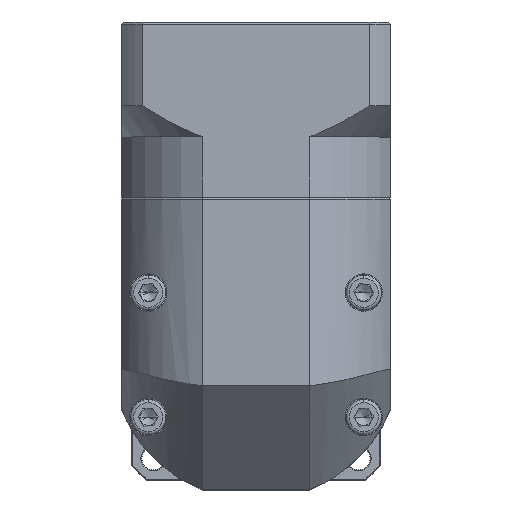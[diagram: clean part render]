
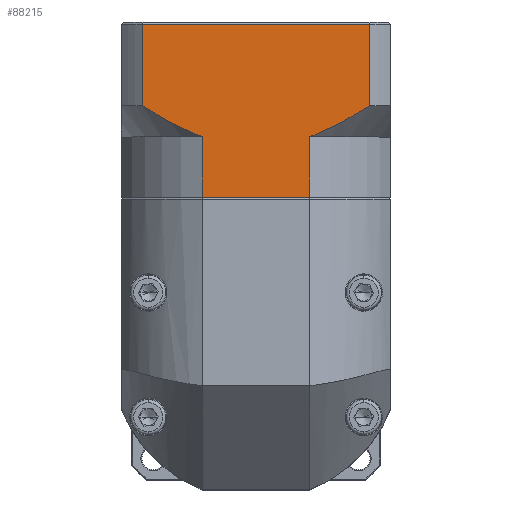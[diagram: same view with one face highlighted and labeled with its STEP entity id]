
A CAD part, top view. The second image highlights one B-rep face of the part: STEP entity #88215.
In plain terms, the highlighted planar face has unit normal (0, 0, 1).
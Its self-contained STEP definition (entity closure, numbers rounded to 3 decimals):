
#827 = DIRECTION ( 'NONE',  ( 0., 1., 0. ) ) ;
#958 = CARTESIAN_POINT ( 'NONE',  ( -35.072, 89.623, 62.31 ) ) ;
#2203 = VECTOR ( 'NONE', #91145, 1000. ) ;
#4314 = DIRECTION ( 'NONE',  ( 0., -1., 0. ) ) ;
#4470 = LINE ( 'NONE', #90801, #80228 ) ;
#4564 = ORIENTED_EDGE ( 'NONE', *, *, #39163, .F. ) ;
#4721 = CARTESIAN_POINT ( 'NONE',  ( -66.073, 87.482, 62.31 ) ) ;
#4829 = EDGE_LOOP ( 'NONE', ( #4564, #57279, #32916, #60467, #90085, #9242, #20158, #62355 ) ) ;
#7513 = DIRECTION ( 'NONE',  ( 0., -1., 0. ) ) ;
#7864 = VERTEX_POINT ( 'NONE', #18017 ) ;
#9242 = ORIENTED_EDGE ( 'NONE', *, *, #41613, .T. ) ;
#10025 = CARTESIAN_POINT ( 'NONE',  ( -38.812, 87.973, 62.31 ) ) ;
#12702 = VERTEX_POINT ( 'NONE', #22826 ) ;
#17752 = CARTESIAN_POINT ( 'NONE',  ( -39.451, 87.72, 62.31 ) ) ;
#18017 = CARTESIAN_POINT ( 'NONE',  ( -80.469, 114.682, 62.31 ) ) ;
#18088 = LINE ( 'NONE', #60161, #97824 ) ;
#18117 = CARTESIAN_POINT ( 'NONE',  ( -36.926, 88.772, 62.31 ) ) ;
#18439 = VERTEX_POINT ( 'NONE', #21422 ) ;
#19204 = VERTEX_POINT ( 'NONE', #76168 ) ;
#20158 = ORIENTED_EDGE ( 'NONE', *, *, #20399, .F. ) ;
#20399 = EDGE_CURVE ( 'NONE', #12702, #18439, #4470, .T. ) ;
#20733 = CARTESIAN_POINT ( 'NONE',  ( -25.697, 87.482, 62.31 ) ) ;
#21422 = CARTESIAN_POINT ( 'NONE',  ( -40.093, 72.982, 62.31 ) ) ;
#21916 = VECTOR ( 'NONE', #38189, 1000. ) ;
#22826 = CARTESIAN_POINT ( 'NONE',  ( -40.093, 87.482, 62.31 ) ) ;
#27492 = B_SPLINE_CURVE_WITH_KNOTS ( 'NONE', 3,
 ( #101266, #50706, #43085, #34373, #66835, #101617, #41621, #58027 ),
 .UNSPECIFIED., .F., .F.,
 ( 4, 2, 2, 4 ),
 ( 0.058, 0.062, 0.066, 0.074 ),
 .UNSPECIFIED. ) ;
#29106 = EDGE_CURVE ( 'NONE', #19204, #60286, #45265, .T. ) ;
#32916 = ORIENTED_EDGE ( 'NONE', *, *, #84470, .F. ) ;
#34373 = CARTESIAN_POINT ( 'NONE',  ( -75.845, 92.149, 62.31 ) ) ;
#35231 = CARTESIAN_POINT ( 'NONE',  ( -33.86, 90.228, 62.31 ) ) ;
#36760 = LINE ( 'NONE', #81569, #51077 ) ;
#38189 = DIRECTION ( 'NONE',  ( 0., 1., 0. ) ) ;
#39163 = EDGE_CURVE ( 'NONE', #61709, #61921, #72680, .T. ) ;
#41613 = EDGE_CURVE ( 'NONE', #19204, #18439, #84538, .T. ) ;
#41621 = CARTESIAN_POINT ( 'NONE',  ( -68.611, 88.424, 62.31 ) ) ;
#43085 = CARTESIAN_POINT ( 'NONE',  ( -78.18, 93.533, 62.31 ) ) ;
#43741 = DIRECTION ( 'NONE',  ( -1., 0., 0. ) ) ;
#45265 = LINE ( 'NONE', #4721, #21916 ) ;
#47730 = VECTOR ( 'NONE', #4314, 1000. ) ;
#50706 = CARTESIAN_POINT ( 'NONE',  ( -79.331, 94.248, 62.31 ) ) ;
#51077 = VECTOR ( 'NONE', #827, 1000. ) ;
#51232 = CARTESIAN_POINT ( 'NONE',  ( -40.093, 87.482, 62.31 ) ) ;
#51852 = CARTESIAN_POINT ( 'NONE',  ( -25.697, 114.682, 62.31 ) ) ;
#52501 = EDGE_CURVE ( 'NONE', #69113, #60286, #27492, .T. ) ;
#53288 = DIRECTION ( 'NONE',  ( 0., 1., 0. ) ) ;
#54224 = B_SPLINE_CURVE_WITH_KNOTS ( 'NONE', 3,
 ( #51232, #17752, #10025, #92609, #18117, #958, #35231, #85638, #76576, #59292 ),
 .UNSPECIFIED., .F., .F.,
 ( 4, 2, 2, 2, 4 ),
 ( 0.101, 0.103, 0.105, 0.109, 0.117 ),
 .UNSPECIFIED. ) ;
#57279 = ORIENTED_EDGE ( 'NONE', *, *, #107761, .T. ) ;
#58027 = CARTESIAN_POINT ( 'NONE',  ( -66.073, 87.482, 62.31 ) ) ;
#59292 = CARTESIAN_POINT ( 'NONE',  ( -25.697, 94.982, 62.31 ) ) ;
#60161 = CARTESIAN_POINT ( 'NONE',  ( -85.583, 114.682, 62.31 ) ) ;
#60286 = VERTEX_POINT ( 'NONE', #60617 ) ;
#60467 = ORIENTED_EDGE ( 'NONE', *, *, #52501, .T. ) ;
#60617 = CARTESIAN_POINT ( 'NONE',  ( -66.073, 87.482, 62.31 ) ) ;
#60749 = AXIS2_PLACEMENT_3D ( 'NONE', #69415, #69056, #53288 ) ;
#61709 = VERTEX_POINT ( 'NONE', #51852 ) ;
#61921 = VERTEX_POINT ( 'NONE', #86652 ) ;
#62355 = ORIENTED_EDGE ( 'NONE', *, *, #77805, .T. ) ;
#66835 = CARTESIAN_POINT ( 'NONE',  ( -74.659, 91.479, 62.31 ) ) ;
#69056 = DIRECTION ( 'NONE',  ( 0., 0., -1. ) ) ;
#69113 = VERTEX_POINT ( 'NONE', #98771 ) ;
#69415 = CARTESIAN_POINT ( 'NONE',  ( -85.583, 115.182, 62.31 ) ) ;
#72680 = LINE ( 'NONE', #20733, #47730 ) ;
#76168 = CARTESIAN_POINT ( 'NONE',  ( -66.073, 72.982, 62.31 ) ) ;
#76576 = CARTESIAN_POINT ( 'NONE',  ( -27.965, 93.52, 62.31 ) ) ;
#77805 = EDGE_CURVE ( 'NONE', #12702, #61921, #54224, .T. ) ;
#80228 = VECTOR ( 'NONE', #7513, 1000. ) ;
#81569 = CARTESIAN_POINT ( 'NONE',  ( -80.469, 87.482, 62.31 ) ) ;
#84470 = EDGE_CURVE ( 'NONE', #69113, #7864, #36760, .T. ) ;
#84538 = LINE ( 'NONE', #90792, #2203 ) ;
#85638 = CARTESIAN_POINT ( 'NONE',  ( -30.279, 92.133, 62.31 ) ) ;
#86652 = CARTESIAN_POINT ( 'NONE',  ( -25.697, 94.982, 62.31 ) ) ;
#88215 = ADVANCED_FACE ( 'NONE', ( #106388 ), #103138, .F. ) ;
#90085 = ORIENTED_EDGE ( 'NONE', *, *, #29106, .F. ) ;
#90792 = CARTESIAN_POINT ( 'NONE',  ( -85.583, 72.982, 62.31 ) ) ;
#90801 = CARTESIAN_POINT ( 'NONE',  ( -40.093, 87.482, 62.31 ) ) ;
#91145 = DIRECTION ( 'NONE',  ( 1., 0., 0. ) ) ;
#92609 = CARTESIAN_POINT ( 'NONE',  ( -37.55, 88.498, 62.31 ) ) ;
#97824 = VECTOR ( 'NONE', #43741, 1000. ) ;
#98771 = CARTESIAN_POINT ( 'NONE',  ( -80.469, 94.982, 62.31 ) ) ;
#101266 = CARTESIAN_POINT ( 'NONE',  ( -80.469, 94.982, 62.31 ) ) ;
#101617 = CARTESIAN_POINT ( 'NONE',  ( -71.063, 89.569, 62.31 ) ) ;
#103138 = PLANE ( 'NONE',  #60749 ) ;
#106388 = FACE_OUTER_BOUND ( 'NONE', #4829, .T. ) ;
#107761 = EDGE_CURVE ( 'NONE', #61709, #7864, #18088, .T. ) ;
